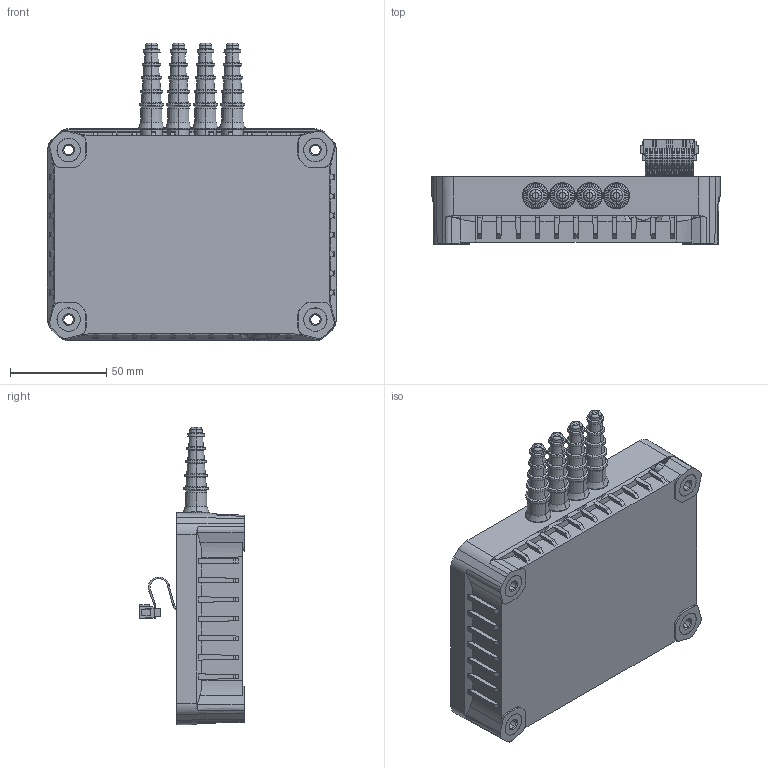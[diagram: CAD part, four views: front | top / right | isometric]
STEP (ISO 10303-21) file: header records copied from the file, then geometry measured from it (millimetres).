
FILE_DESCRIPTION (( 'STEP AP203' ), '1' );
FILE_NAME ('S-1293.STEP', '2018-05-28T11:43:48', ( '' ), ( '' ), 'SwSTEP 2.0', 'SolidWorks 2018', '' );
FILE_SCHEMA (( 'CONFIG_CONTROL_DESIGN' ));
Products named in the file (1): S-1293
Bounding box: 150 x 54.22 x 154.42 mm (x, y, z)
Volume: 333988.7 mm3; surface area: 98662.3 mm2
Topology: 8 solids, 9 shells, 4360 faces, 11631 edges, 7065 vertices
Faces by surface type: plane 1975, cylinder 1162, cone 482, torus 429, bspline 310, sphere 2
Entity records: 179841 total; most frequent: CARTESIAN_POINT 74283, ORIENTED_EDGE 23258, DIRECTION 20772, EDGE_CURVE 11629, AXIS2_PLACEMENT_3D 7112, VERTEX_POINT 7065, LINE 6548, VECTOR 6548
